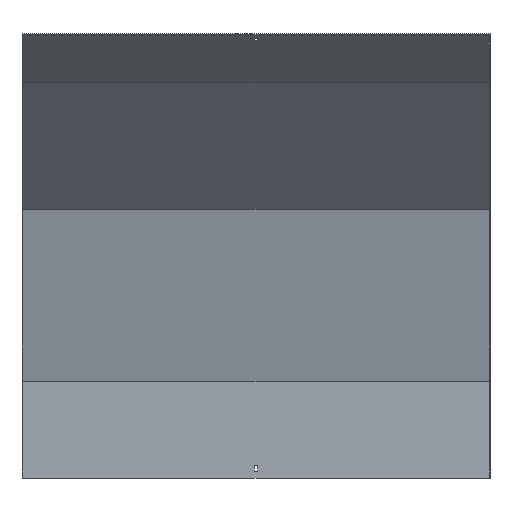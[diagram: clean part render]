
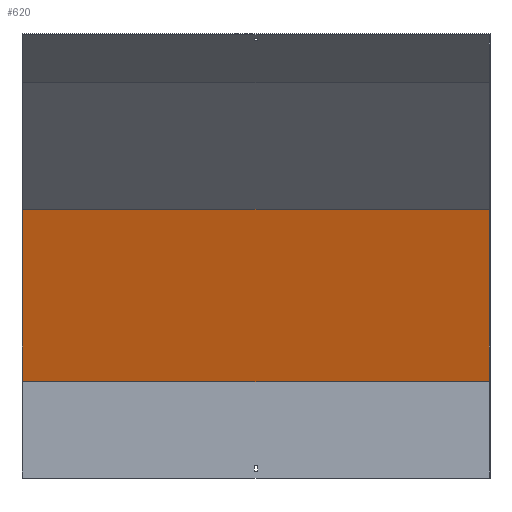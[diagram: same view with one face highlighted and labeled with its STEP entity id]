
A CAD part, front view. The second image highlights one B-rep face of the part: STEP entity #620.
In plain terms, the highlighted planar face has unit normal (0, -0.966, -0.259).
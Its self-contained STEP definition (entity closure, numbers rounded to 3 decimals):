
#23 = EDGE_LOOP ( 'NONE', ( #468, #553, #777, #543 ) ) ;
#25 = VECTOR ( 'NONE', #630, 1000. ) ;
#26 = LINE ( 'NONE', #820, #139 ) ;
#50 = DIRECTION ( 'NONE',  ( 0., -0.966, -0.259 ) ) ;
#55 = VECTOR ( 'NONE', #547, 1000. ) ;
#86 = EDGE_CURVE ( 'NONE', #605, #285, #180, .T. ) ;
#100 = CARTESIAN_POINT ( 'NONE',  ( 400., 18.5, 165.436 ) ) ;
#120 = PLANE ( 'NONE',  #200 ) ;
#125 = VERTEX_POINT ( 'NONE', #610 ) ;
#139 = VECTOR ( 'NONE', #661, 1000. ) ;
#180 = LINE ( 'NONE', #559, #25 ) ;
#194 = EDGE_CURVE ( 'NONE', #285, #336, #26, .T. ) ;
#200 = AXIS2_PLACEMENT_3D ( 'NONE', #965, #50, #893 ) ;
#231 = CARTESIAN_POINT ( 'NONE',  ( 401.5, -60.8, 461.388 ) ) ;
#247 = LINE ( 'NONE', #231, #55 ) ;
#262 = CARTESIAN_POINT ( 'NONE',  ( -400., -60.8, 461.388 ) ) ;
#285 = VERTEX_POINT ( 'NONE', #878 ) ;
#336 = VERTEX_POINT ( 'NONE', #262 ) ;
#424 = VECTOR ( 'NONE', #584, 1000. ) ;
#444 = CARTESIAN_POINT ( 'NONE',  ( 400., 58.62, 15.707 ) ) ;
#468 = ORIENTED_EDGE ( 'NONE', *, *, #194, .F. ) ;
#543 = ORIENTED_EDGE ( 'NONE', *, *, #810, .T. ) ;
#547 = DIRECTION ( 'NONE',  ( -1., 0., 0. ) ) ;
#553 = ORIENTED_EDGE ( 'NONE', *, *, #86, .F. ) ;
#559 = CARTESIAN_POINT ( 'NONE',  ( 401.5, 18.5, 165.436 ) ) ;
#584 = DIRECTION ( 'NONE',  ( 0., -0.259, 0.966 ) ) ;
#605 = VERTEX_POINT ( 'NONE', #100 ) ;
#610 = CARTESIAN_POINT ( 'NONE',  ( 400., -60.8, 461.388 ) ) ;
#620 = ADVANCED_FACE ( 'NONE', ( #720 ), #120, .T. ) ;
#630 = DIRECTION ( 'NONE',  ( -1., 0., 0. ) ) ;
#661 = DIRECTION ( 'NONE',  ( 0., -0.259, 0.966 ) ) ;
#720 = FACE_OUTER_BOUND ( 'NONE', #23, .T. ) ;
#777 = ORIENTED_EDGE ( 'NONE', *, *, #885, .T. ) ;
#810 = EDGE_CURVE ( 'NONE', #125, #336, #247, .T. ) ;
#820 = CARTESIAN_POINT ( 'NONE',  ( -400., 58.62, 15.707 ) ) ;
#878 = CARTESIAN_POINT ( 'NONE',  ( -400., 18.5, 165.436 ) ) ;
#885 = EDGE_CURVE ( 'NONE', #605, #125, #906, .T. ) ;
#893 = DIRECTION ( 'NONE',  ( 0., 0.259, -0.966 ) ) ;
#906 = LINE ( 'NONE', #444, #424 ) ;
#965 = CARTESIAN_POINT ( 'NONE',  ( 401.5, 17.87, 167.788 ) ) ;
